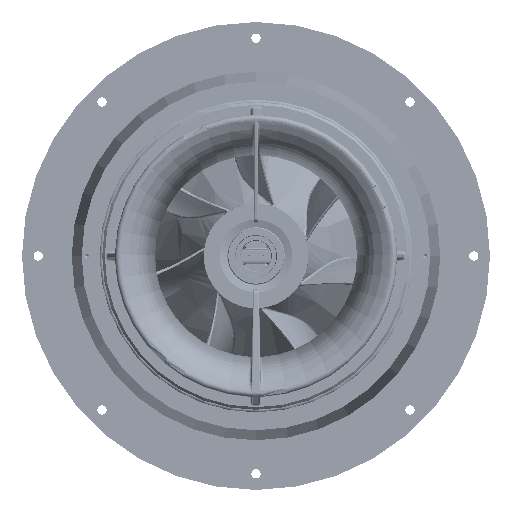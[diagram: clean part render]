
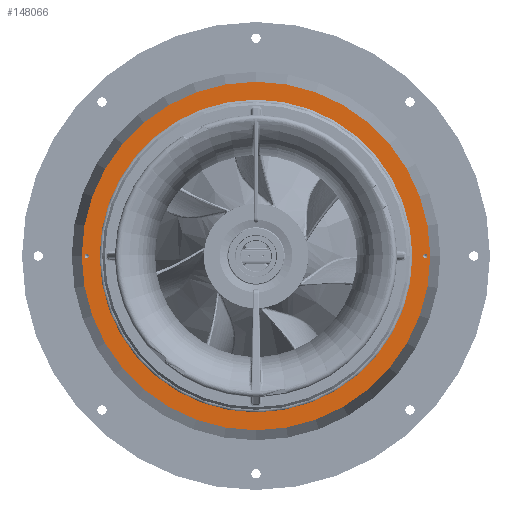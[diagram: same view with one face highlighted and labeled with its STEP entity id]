
A CAD part, front view. The second image highlights one B-rep face of the part: STEP entity #148066.
In plain terms, the highlighted planar face has unit normal (0, -1, 0).
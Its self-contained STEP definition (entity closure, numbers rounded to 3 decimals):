
#2032 = ORIENTED_EDGE ( 'NONE', *, *, #338284, .F. ) ;
#8019 = EDGE_CURVE ( 'NONE', #78988, #725211, #151400, .T. ) ;
#13286 = DIRECTION ( 'NONE',  ( 0., 0., -1. ) ) ;
#15700 = DIRECTION ( 'NONE',  ( 0., -1., 0. ) ) ;
#21775 = CARTESIAN_POINT ( 'NONE',  ( -330., -724.968, -4.25 ) ) ;
#30445 = AXIS2_PLACEMENT_3D ( 'NONE', #251336, #142295, #422416 ) ;
#43671 = VERTEX_POINT ( 'NONE', #56109 ) ;
#55229 = DIRECTION ( 'NONE',  ( 0., 0., -1. ) ) ;
#56109 = CARTESIAN_POINT ( 'NONE',  ( 0., -724.968, 305. ) ) ;
#58639 = DIRECTION ( 'NONE',  ( 0., 0., -1. ) ) ;
#67019 = CIRCLE ( 'NONE', #341339, 340. ) ;
#75056 = AXIS2_PLACEMENT_3D ( 'NONE', #692426, #15700, #13286 ) ;
#76574 = FACE_OUTER_BOUND ( 'NONE', #433805, .T. ) ;
#78988 = VERTEX_POINT ( 'NONE', #582575 ) ;
#105945 = CARTESIAN_POINT ( 'NONE',  ( -330., -724.968, 0. ) ) ;
#109852 = AXIS2_PLACEMENT_3D ( 'NONE', #218713, #561002, #55229 ) ;
#115016 = EDGE_CURVE ( 'NONE', #505466, #446337, #370084, .T. ) ;
#124662 = CARTESIAN_POINT ( 'NONE',  ( 0., -724.968, -305. ) ) ;
#142295 = DIRECTION ( 'NONE',  ( 0., -1., 0. ) ) ;
#145399 = EDGE_LOOP ( 'NONE', ( #2032, #439933 ) ) ;
#148066 = ADVANCED_FACE ( 'NONE', ( #519581, #368780, #76574, #546731 ), #330302, .T. ) ;
#151400 = CIRCLE ( 'NONE', #30445, 340. ) ;
#172899 = CARTESIAN_POINT ( 'NONE',  ( 330., -724.968, -4.25 ) ) ;
#185437 = CARTESIAN_POINT ( 'NONE',  ( 330., -724.968, 4.25 ) ) ;
#218713 = CARTESIAN_POINT ( 'NONE',  ( 305., -724.968, 0. ) ) ;
#229538 = DIRECTION ( 'NONE',  ( 0., -1., 0. ) ) ;
#233180 = DIRECTION ( 'NONE',  ( 0., 0., -1. ) ) ;
#240520 = DIRECTION ( 'NONE',  ( 0., -1., 0. ) ) ;
#251336 = CARTESIAN_POINT ( 'NONE',  ( 0., -724.968, 0. ) ) ;
#266945 = ORIENTED_EDGE ( 'NONE', *, *, #372790, .F. ) ;
#272818 = DIRECTION ( 'NONE',  ( 0., 0., -1. ) ) ;
#284852 = ORIENTED_EDGE ( 'NONE', *, *, #458611, .T. ) ;
#303900 = CIRCLE ( 'NONE', #630383, 4.25 ) ;
#309406 = CARTESIAN_POINT ( 'NONE',  ( 0., -724.968, 0. ) ) ;
#309945 = DIRECTION ( 'NONE',  ( 0., 0., -1. ) ) ;
#319168 = DIRECTION ( 'NONE',  ( 0., -1., 0. ) ) ;
#319817 = AXIS2_PLACEMENT_3D ( 'NONE', #498380, #500837, #272818 ) ;
#330302 = PLANE ( 'NONE',  #109852 ) ;
#338284 = EDGE_CURVE ( 'NONE', #365689, #43671, #645055, .T. ) ;
#340192 = ORIENTED_EDGE ( 'NONE', *, *, #660966, .F. ) ;
#341339 = AXIS2_PLACEMENT_3D ( 'NONE', #309406, #319168, #547421 ) ;
#343579 = DIRECTION ( 'NONE',  ( 0., 0., -1. ) ) ;
#348139 = AXIS2_PLACEMENT_3D ( 'NONE', #463701, #240520, #233180 ) ;
#350178 = ORIENTED_EDGE ( 'NONE', *, *, #115016, .F. ) ;
#365689 = VERTEX_POINT ( 'NONE', #124662 ) ;
#368780 = FACE_BOUND ( 'NONE', #605707, .T. ) ;
#370084 = CIRCLE ( 'NONE', #75056, 4.25 ) ;
#372790 = EDGE_CURVE ( 'NONE', #574956, #488610, #303900, .T. ) ;
#394569 = EDGE_CURVE ( 'NONE', #488610, #574956, #733464, .T. ) ;
#421606 = CARTESIAN_POINT ( 'NONE',  ( 0., -724.968, 0. ) ) ;
#422416 = DIRECTION ( 'NONE',  ( 0., 0., -1. ) ) ;
#425582 = ORIENTED_EDGE ( 'NONE', *, *, #394569, .F. ) ;
#433805 = EDGE_LOOP ( 'NONE', ( #284852, #735157 ) ) ;
#439933 = ORIENTED_EDGE ( 'NONE', *, *, #576100, .F. ) ;
#446337 = VERTEX_POINT ( 'NONE', #172899 ) ;
#458611 = EDGE_CURVE ( 'NONE', #725211, #78988, #67019, .T. ) ;
#463701 = CARTESIAN_POINT ( 'NONE',  ( 0., -724.968, 0. ) ) ;
#473625 = DIRECTION ( 'NONE',  ( 0., -1., 0. ) ) ;
#484622 = CIRCLE ( 'NONE', #348139, 305. ) ;
#488610 = VERTEX_POINT ( 'NONE', #506201 ) ;
#495102 = CIRCLE ( 'NONE', #715436, 4.25 ) ;
#498380 = CARTESIAN_POINT ( 'NONE',  ( -330., -724.968, 0. ) ) ;
#500837 = DIRECTION ( 'NONE',  ( 0., -1., 0. ) ) ;
#505466 = VERTEX_POINT ( 'NONE', #185437 ) ;
#506201 = CARTESIAN_POINT ( 'NONE',  ( -330., -724.968, 4.25 ) ) ;
#519581 = FACE_BOUND ( 'NONE', #678103, .T. ) ;
#532098 = CARTESIAN_POINT ( 'NONE',  ( 0., -724.968, -340. ) ) ;
#546731 = FACE_BOUND ( 'NONE', #145399, .T. ) ;
#547421 = DIRECTION ( 'NONE',  ( 0., 0., -1. ) ) ;
#561002 = DIRECTION ( 'NONE',  ( 0., -1., 0. ) ) ;
#569407 = CARTESIAN_POINT ( 'NONE',  ( 330., -724.968, 0. ) ) ;
#574956 = VERTEX_POINT ( 'NONE', #21775 ) ;
#576100 = EDGE_CURVE ( 'NONE', #43671, #365689, #484622, .T. ) ;
#582575 = CARTESIAN_POINT ( 'NONE',  ( 0., -724.968, 340. ) ) ;
#593392 = AXIS2_PLACEMENT_3D ( 'NONE', #421606, #473625, #309945 ) ;
#605707 = EDGE_LOOP ( 'NONE', ( #266945, #425582 ) ) ;
#630383 = AXIS2_PLACEMENT_3D ( 'NONE', #105945, #732972, #58639 ) ;
#645055 = CIRCLE ( 'NONE', #593392, 305. ) ;
#660966 = EDGE_CURVE ( 'NONE', #446337, #505466, #495102, .T. ) ;
#678103 = EDGE_LOOP ( 'NONE', ( #340192, #350178 ) ) ;
#692426 = CARTESIAN_POINT ( 'NONE',  ( 330., -724.968, 0. ) ) ;
#715436 = AXIS2_PLACEMENT_3D ( 'NONE', #569407, #229538, #343579 ) ;
#725211 = VERTEX_POINT ( 'NONE', #532098 ) ;
#732972 = DIRECTION ( 'NONE',  ( 0., -1., 0. ) ) ;
#733464 = CIRCLE ( 'NONE', #319817, 4.25 ) ;
#735157 = ORIENTED_EDGE ( 'NONE', *, *, #8019, .T. ) ;
